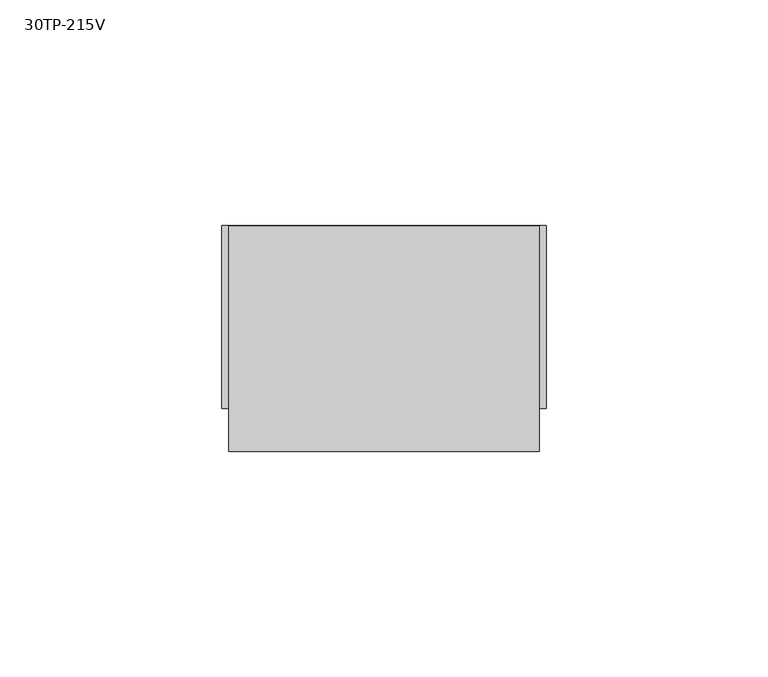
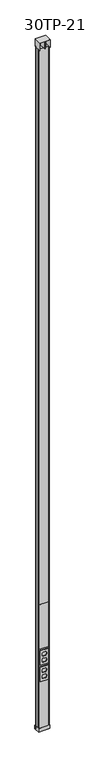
"""IFC4 building model written with IfcOpenShell, lengths in millimetres: proxy geometry, Vertical_Drop_Pole-Wiremold-Tele_Power_Pole-2V : 30TP-215V."""

from ifc_helpers import new_model, si_unit, point, frame, frame_2d, origin, origin_with_axes, place, context, project, spatial, polyline, circle_curve, trimmed, segment, composite_curve, outline, extrude, source, transform, mapped, element, save


def proxy_30tp_215v_6feaa6b5(model_context):
    return source(origin(), model_context, "Body", "SweptSolid", [
        extrude(outline(polyline([(31.0, -15.9657638), (-31.0, -15.9657638), (-31.0, -14.9657638), (31.0, -14.9657638), (31.0, -15.9657638)])), frame((0.0, 0.0, 567.3552083), z_axis=(0.0, 0.0, 1.0), x_axis=(1.0, 0.0, 0.0)), (0.0, 0.0, 1.0), 306.3875),
        extrude(outline(polyline([(-0.8929688, -28.0704513), (-0.8929688, 22.7295487), (0.8929687, 22.7295487), (0.8929687, -28.0704513), (-0.8929688, -28.0704513)])), frame((0.0, 0.0, 4699.0), z_axis=(0.0, 0.0, 1.0), x_axis=(1.0, 0.0, 0.0)), (0.0, 0.0, 1.0), 50.8),
        extrude(outline(polyline([(-23.8969536, 21.1420487), (23.8969536, 21.1420487), (23.8969536, 19.5545487), (-23.8969536, 19.5545487), (-23.8969536, 21.1420487)])), frame((0.0, 0.0, 4672.0125), z_axis=(0.0, 0.0, 1.0), x_axis=(1.0, 0.0, 0.0)), (0.0, 0.0, 1.0), 26.9875),
        extrude(outline(polyline([(-33.3375, 22.7295487), (33.3375, 22.7295487), (33.3375, 21.1420487), (-33.3375, 21.1420487), (-33.3375, 22.7295487)])), frame((0.0, 0.0, 4699.0), z_axis=(0.0, 0.0, 1.0), x_axis=(1.0, 0.0, 0.0)), (0.0, 0.0, 1.0), 50.8),
        extrude(outline(polyline([(-34.925, -28.0704513), (-34.925, 22.7295487), (-33.3375, 22.7295487), (-33.3375, -28.0704513), (-34.925, -28.0704513)])), frame((0.0, 0.0, 4699.0), z_axis=(0.0, 0.0, 1.0), x_axis=(1.0, 0.0, 0.0)), (0.0, 0.0, 1.0), 50.8),
        extrude(outline(polyline([(33.3375, -28.0704513), (33.3375, 22.7295487), (34.925, 22.7295487), (34.925, -28.0704513), (33.3375, -28.0704513)])), frame((0.0, 0.0, 4699.0), z_axis=(0.0, 0.0, 1.0), x_axis=(1.0, 0.0, 0.0)), (0.0, 0.0, 1.0), 50.8),
        extrude(outline(polyline([(-34.925, -28.0704513), (-34.925, 22.7295487), (34.925, 22.7295487), (34.925, -28.0704513), (-34.925, -28.0704513)])), frame((0.0, 0.0, 4749.8), z_axis=(0.0, 0.0, 1.0), x_axis=(1.0, 0.0, 0.0)), (0.0, 0.0, 1.0), 1.5875),
        extrude(outline(polyline([(445.2663959, 25.4), (445.2663959, -25.4), (343.6663959, -25.4), (343.6663959, 25.4), (445.2663959, 25.4)]), holes=[composite_curve([segment(polyline([(428.349599, -7.9339585), (428.349599, 8.0597711)]), True, "CONTINUOUS"), segment(trimmed(circle_curve(frame_2d((416.2783271, 0.9957546)), 13.9862766), [point((428.349599, 8.0597711))], [point((416.2783271, 14.9820313))], True, "CARTESIAN"), True, "CONTINUOUS"), segment(polyline([(416.2783271, 14.9820313), (414.190824, 14.9820313)]), True, "CONTINUOUS"), segment(trimmed(circle_curve(frame_2d((414.190824, 0.9820313)), 14.0), [point((414.190824, 14.9820313))], [point((402.3542865, 8.4584194))], True, "CARTESIAN"), True, "CONTINUOUS"), segment(polyline([(402.3542865, 8.4584194), (402.3542865, -8.3446349)]), True, "CONTINUOUS"), segment(trimmed(circle_curve(frame_2d((414.3186008, -0.8801276)), 14.1019036), [point((402.3542865, -8.3446349))], [point((414.3186008, -14.9820312))], True, "CARTESIAN"), True, "CONTINUOUS"), segment(polyline([(414.3186008, -14.9820312), (416.2361259, -14.9820312)]), True, "CONTINUOUS"), segment(trimmed(circle_curve(frame_2d((416.2361259, -1.0483243)), 13.933707), [point((416.2361259, -14.9820312))], [point((428.349599, -7.9339585))], True, "CARTESIAN"), True, "CONTINUOUS")], self_intersect=False), composite_curve([segment(polyline([(386.5785052, -8.6075876), (386.5785052, 8.7168414)]), True, "CONTINUOUS"), segment(trimmed(circle_curve(frame_2d((374.9207619, 1.0035576)), 13.9784736), [point((386.5785052, 8.7168414))], [point((374.9207619, 14.9820313))], True, "CARTESIAN"), True, "CONTINUOUS"), segment(polyline([(374.9207619, 14.9820313), (372.8263017, 14.9820313)]), True, "CONTINUOUS"), segment(trimmed(circle_curve(frame_2d((372.8263017, 0.9731741)), 14.0088572), [point((372.8263017, 14.9820313))], [point((360.5831927, 7.7815778))], True, "CARTESIAN"), True, "CONTINUOUS"), segment(polyline([(360.5831927, 7.7815778), (360.5831927, -7.6594621)]), True, "CONTINUOUS"), segment(trimmed(circle_curve(frame_2d((372.9539054, -0.8712357)), 14.1107955), [point((360.5831927, -7.6594621))], [point((372.9539054, -14.9820312))], True, "CARTESIAN"), True, "CONTINUOUS"), segment(polyline([(372.9539054, -14.9820312), (374.8785806, -14.9820312)]), True, "CONTINUOUS"), segment(trimmed(circle_curve(frame_2d((374.8785806, -1.0575402)), 13.9244911), [point((374.8785806, -14.9820312))], [point((386.5785052, -8.6075876))], True, "CARTESIAN"), True, "CONTINUOUS")], self_intersect=False)]), frame((0.0, -19.1407638, 0.0), z_axis=(0.0, 1.0, 0.0), x_axis=(0.0, 0.0, 1.0)), (0.0, 0.0, 1.0), 3.175),
        extrude(outline(polyline([(557.8798176, 25.4), (557.8798176, -25.4), (456.2798176, -25.4), (456.2798176, 25.4), (557.8798176, 25.4)]), holes=[composite_curve([segment(polyline([(540.9630208, -7.9339585), (540.9630208, 8.0597711)]), True, "CONTINUOUS"), segment(trimmed(circle_curve(frame_2d((528.8917489, 0.9957546)), 13.9862766), [point((540.9630208, 8.0597711))], [point((528.8917489, 14.9820313))], True, "CARTESIAN"), True, "CONTINUOUS"), segment(polyline([(528.8917489, 14.9820313), (526.8042458, 14.9820313)]), True, "CONTINUOUS"), segment(trimmed(circle_curve(frame_2d((526.8042458, 0.9820313)), 14.0), [point((526.8042458, 14.9820313))], [point((514.9677083, 8.4584194))], True, "CARTESIAN"), True, "CONTINUOUS"), segment(polyline([(514.9677083, 8.4584194), (514.9677083, -8.3446349)]), True, "CONTINUOUS"), segment(trimmed(circle_curve(frame_2d((526.9320226, -0.8801276)), 14.1019036), [point((514.9677083, -8.3446349))], [point((526.9320226, -14.9820312))], True, "CARTESIAN"), True, "CONTINUOUS"), segment(polyline([(526.9320226, -14.9820312), (528.8495476, -14.9820312)]), True, "CONTINUOUS"), segment(trimmed(circle_curve(frame_2d((528.8495476, -1.0483243)), 13.933707), [point((528.8495476, -14.9820312))], [point((540.9630208, -7.9339585))], True, "CARTESIAN"), True, "CONTINUOUS")], self_intersect=False), composite_curve([segment(polyline([(499.191927, -8.6075876), (499.191927, 8.7168414)]), True, "CONTINUOUS"), segment(trimmed(circle_curve(frame_2d((487.5341837, 1.0035576)), 13.9784736), [point((499.191927, 8.7168414))], [point((487.5341837, 14.9820313))], True, "CARTESIAN"), True, "CONTINUOUS"), segment(polyline([(487.5341837, 14.9820313), (485.4397235, 14.9820313)]), True, "CONTINUOUS"), segment(trimmed(circle_curve(frame_2d((485.4397235, 0.9731741)), 14.0088572), [point((485.4397235, 14.9820313))], [point((473.1966145, 7.7815778))], True, "CARTESIAN"), True, "CONTINUOUS"), segment(polyline([(473.1966145, 7.7815778), (473.1966145, -7.6594621)]), True, "CONTINUOUS"), segment(trimmed(circle_curve(frame_2d((485.5673272, -0.8712357)), 14.1107955), [point((473.1966145, -7.6594621))], [point((485.5673272, -14.9820312))], True, "CARTESIAN"), True, "CONTINUOUS"), segment(polyline([(485.5673272, -14.9820312), (487.4920024, -14.9820312)]), True, "CONTINUOUS"), segment(trimmed(circle_curve(frame_2d((487.4920024, -1.0575402)), 13.9244911), [point((487.4920024, -14.9820312))], [point((499.191927, -8.6075876))], True, "CARTESIAN"), True, "CONTINUOUS")], self_intersect=False)]), frame((0.0, -19.1407638, 0.0), z_axis=(0.0, 1.0, 0.0), x_axis=(0.0, 0.0, 1.0)), (0.0, 0.0, 1.0), 3.175),
        extrude(outline(composite_curve([segment(trimmed(circle_curve(frame_2d((30.925, 18.1342362)), 4.0), [point((30.925, 22.1342362))], [point((34.925, 18.1342362))], False, "CARTESIAN"), True, "CONTINUOUS"), segment(polyline([(34.925, 18.1342362), (34.925, -11.9657638)]), True, "CONTINUOUS"), segment(trimmed(circle_curve(frame_2d((30.925, -11.9657638)), 4.0), [point((34.925, -11.9657638))], [point((30.925, -15.9657638))], False, "CARTESIAN"), True, "CONTINUOUS"), segment(polyline([(30.925, -15.9657638), (-30.925, -15.9657638)]), True, "CONTINUOUS"), segment(trimmed(circle_curve(frame_2d((-30.925, -11.9657638)), 4.0), [point((-30.925, -15.9657638))], [point((-34.925, -11.9657638))], False, "CARTESIAN"), True, "CONTINUOUS"), segment(polyline([(-34.925, -11.9657638), (-34.925, 18.1342362)]), True, "CONTINUOUS"), segment(trimmed(circle_curve(frame_2d((-30.925, 18.1342362)), 4.0), [point((-34.925, 18.1342362))], [point((-30.925, 22.1342362))], False, "CARTESIAN"), True, "CONTINUOUS"), segment(polyline([(-30.925, 22.1342362), (30.925, 22.1342362)]), True, "CONTINUOUS")], self_intersect=False), holes=[composite_curve([segment(trimmed(circle_curve(frame_2d((-29.925, -10.9657638)), 4.0), [point((-33.925, -10.9657638))], [point((-29.925, -14.9657638))], True, "CARTESIAN"), True, "CONTINUOUS"), segment(polyline([(-29.925, -14.9657638), (29.925, -14.9657638)]), True, "CONTINUOUS"), segment(trimmed(circle_curve(frame_2d((29.925, -10.9657638)), 4.0), [point((29.925, -14.9657638))], [point((33.925, -10.9657638))], True, "CARTESIAN"), True, "CONTINUOUS"), segment(polyline([(33.925, -10.9657638), (33.925, 17.1342362)]), True, "CONTINUOUS"), segment(trimmed(circle_curve(frame_2d((29.925, 17.1342362)), 4.0), [point((33.925, 17.1342362))], [point((29.925, 21.1342362))], True, "CARTESIAN"), True, "CONTINUOUS"), segment(polyline([(29.925, 21.1342362), (-29.925, 21.1342362)]), True, "CONTINUOUS"), segment(trimmed(circle_curve(frame_2d((-29.925, 17.1342362)), 4.0), [point((-29.925, 21.1342362))], [point((-33.925, 17.1342362))], True, "CARTESIAN"), True, "CONTINUOUS"), segment(polyline([(-33.925, 17.1342362), (-33.925, -10.9657638)]), True, "CONTINUOUS")], self_intersect=False)]), origin_with_axes(), (0.0, 0.0, 1.0), 4699.0),
        extrude(outline(polyline([(-36.5125, 23.7217362), (36.5125, 23.7217362), (36.5125, -17.5532638), (-36.5125, -17.5532638), (-36.5125, 23.7217362)]), holes=[polyline([(34.925, 22.1342362), (-34.925, 22.1342362), (-34.925, -15.9657638), (34.925, -15.9657638), (34.925, 22.1342362)])]), origin_with_axes(), (0.0, 0.0, 1.0), 23.8125),
    ])


if __name__ == "__main__":
    model = new_model("IFC4")
    model_context = context("Model", 3, world=origin())
    ifc_project = project(units=[si_unit("LENGTHUNIT", "METRE", prefix="MILLI")], contexts=[model_context])
    site = spatial("IfcSite", under=ifc_project)
    building = spatial("IfcBuilding", under=site)
    placement = place(None, origin())
    proxy_30tp_215v_shape = proxy_30tp_215v_6feaa6b5(model_context)
    element("IfcBuildingElementProxy", 1, Name="Vertical_Drop_Pole-Wiremold-Tele_Power_Pole-2V : 30TP-215V", ObjectType="Vertical_Drop_Pole-Wiremold-Tele_Power_Pole-2V : 30TP-215V", at=placement, inside=building, context=model_context, shape_type="MappedRepresentation", body=[
        mapped(proxy_30tp_215v_shape, transform((0.0, 0.0, 0.0), x_axis=(1.0, 0.0, 0.0), y_axis=(0.0, 1.0, 0.0), z_axis=(0.0, 0.0, 1.0))),
    ])
    save(model, "model.ifc")
